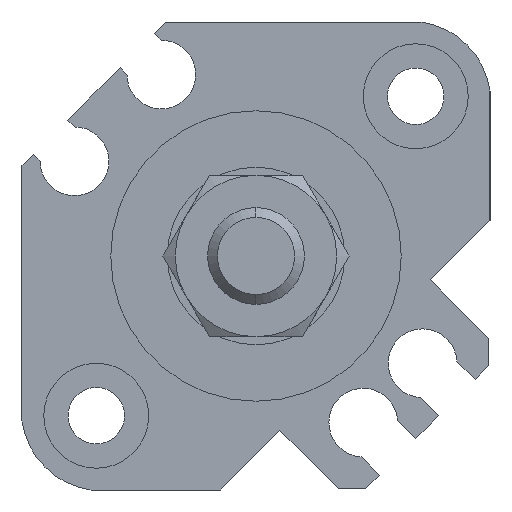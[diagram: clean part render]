
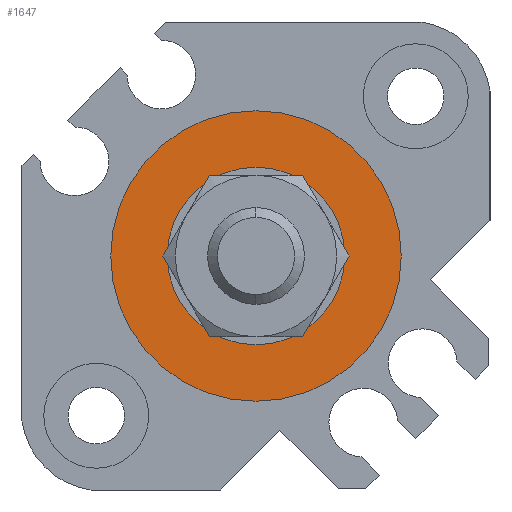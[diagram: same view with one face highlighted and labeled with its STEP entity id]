
A CAD part, left-side view. The second image highlights one B-rep face of the part: STEP entity #1647.
In plain terms, the highlighted planar face has unit normal (-1, 0, 0).
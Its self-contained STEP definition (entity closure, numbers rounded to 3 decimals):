
#406 = DIRECTION ( 'NONE',  ( 0., 1., 0. ) ) ;
#500 = DIRECTION ( 'NONE',  ( 1., 0., 0. ) ) ;
#523 = DIRECTION ( 'NONE',  ( 0., 0., -1. ) ) ;
#605 = DIRECTION ( 'NONE',  ( 1., 0., 0. ) ) ;
#734 = CIRCLE ( 'NONE', #1663, 9. ) ;
#1082 = CARTESIAN_POINT ( 'NONE',  ( 1.1, 0., 0. ) ) ;
#1105 = DIRECTION ( 'NONE',  ( 1., 0., 0. ) ) ;
#1127 = DIRECTION ( 'NONE',  ( 0., 0., -1. ) ) ;
#1183 = DIRECTION ( 'NONE',  ( 1., 0., 0. ) ) ;
#1218 = CARTESIAN_POINT ( 'NONE',  ( 1.1, 0., 0. ) ) ;
#1276 = EDGE_CURVE ( 'NONE', #4885, #1476, #4262, .T. ) ;
#1320 = DIRECTION ( 'NONE',  ( 1., 0., 0. ) ) ;
#1370 = CARTESIAN_POINT ( 'NONE',  ( 1.1, 0., 0. ) ) ;
#1412 = CIRCLE ( 'NONE', #3017, 5.5 ) ;
#1453 = EDGE_LOOP ( 'NONE', ( #3729, #4305 ) ) ;
#1476 = VERTEX_POINT ( 'NONE', #3932 ) ;
#1647 = ADVANCED_FACE ( 'NONE', ( #2848, #2822 ), #2005, .F. ) ;
#1663 = AXIS2_PLACEMENT_3D ( 'NONE', #4227, #605, #4993 ) ;
#1763 = EDGE_LOOP ( 'NONE', ( #2563, #3476 ) ) ;
#1774 = AXIS2_PLACEMENT_3D ( 'NONE', #4438, #1183, #406 ) ;
#1932 = CARTESIAN_POINT ( 'NONE',  ( 1.1, 0., 9. ) ) ;
#1998 = VERTEX_POINT ( 'NONE', #4821 ) ;
#2005 = PLANE ( 'NONE',  #1774 ) ;
#2223 = VERTEX_POINT ( 'NONE', #4689 ) ;
#2563 = ORIENTED_EDGE ( 'NONE', *, *, #1276, .F. ) ;
#2822 = FACE_BOUND ( 'NONE', #1453, .T. ) ;
#2848 = FACE_OUTER_BOUND ( 'NONE', #1763, .T. ) ;
#3017 = AXIS2_PLACEMENT_3D ( 'NONE', #1082, #1105, #1127 ) ;
#3476 = ORIENTED_EDGE ( 'NONE', *, *, #4916, .F. ) ;
#3508 = AXIS2_PLACEMENT_3D ( 'NONE', #1370, #1320, #523 ) ;
#3729 = ORIENTED_EDGE ( 'NONE', *, *, #4765, .T. ) ;
#3754 = CIRCLE ( 'NONE', #3508, 5.5 ) ;
#3932 = CARTESIAN_POINT ( 'NONE',  ( 1.1, 0., -9. ) ) ;
#4089 = AXIS2_PLACEMENT_3D ( 'NONE', #1218, #500, #4920 ) ;
#4227 = CARTESIAN_POINT ( 'NONE',  ( 1.1, 0., 0. ) ) ;
#4262 = CIRCLE ( 'NONE', #4089, 9. ) ;
#4305 = ORIENTED_EDGE ( 'NONE', *, *, #5050, .T. ) ;
#4438 = CARTESIAN_POINT ( 'NONE',  ( 1.1, 0., 0. ) ) ;
#4689 = CARTESIAN_POINT ( 'NONE',  ( 1.1, 0., -5.5 ) ) ;
#4765 = EDGE_CURVE ( 'NONE', #1998, #2223, #1412, .T. ) ;
#4821 = CARTESIAN_POINT ( 'NONE',  ( 1.1, 0., 5.5 ) ) ;
#4885 = VERTEX_POINT ( 'NONE', #1932 ) ;
#4916 = EDGE_CURVE ( 'NONE', #1476, #4885, #734, .T. ) ;
#4920 = DIRECTION ( 'NONE',  ( 0., 0., -1. ) ) ;
#4993 = DIRECTION ( 'NONE',  ( 0., 0., -1. ) ) ;
#5050 = EDGE_CURVE ( 'NONE', #2223, #1998, #3754, .T. ) ;
